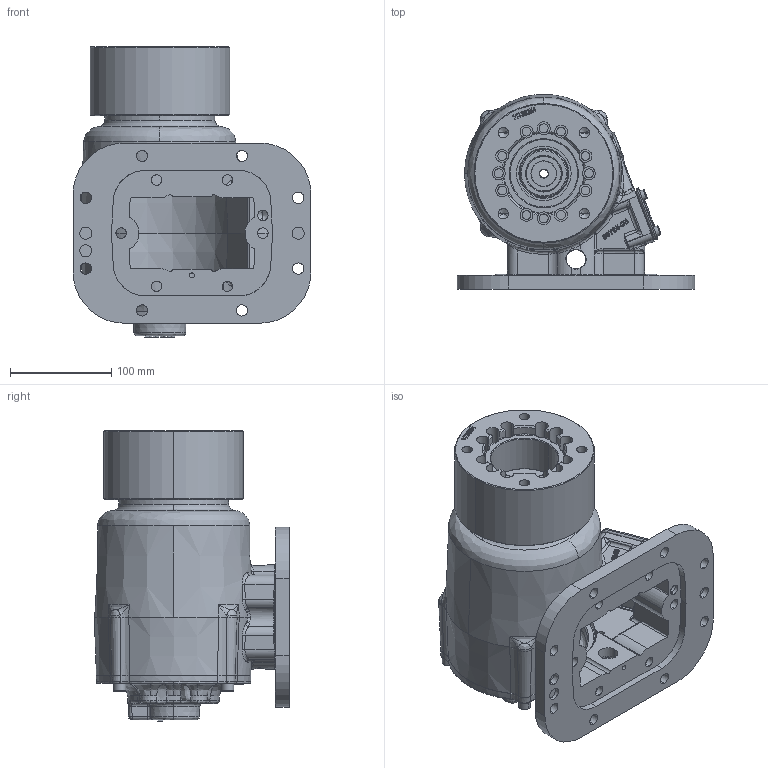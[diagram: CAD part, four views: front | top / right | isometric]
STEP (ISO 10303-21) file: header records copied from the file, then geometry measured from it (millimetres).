
FILE_DESCRIPTION (( 'STEP AP203' ), '1' );
FILE_NAME ('CS8S-XXXXX-E3IX.STEP', '2023-05-03T17:51:44', ( '' ), ( '' ), 'SwSTEP 2.0', 'SolidWorks 2021', '' );
FILE_SCHEMA (( 'CONFIG_CONTROL_DESIGN' ));
Length unit declared in the file: inch
Products named in the file (9): 14T38354; 19T41118; 11T37795; 01t37075a; 14TA4824_Config1; CS8S-XXXXX-E3IX; 16T41119; 19T35237; 15T36717
Assembly tree (14 placements, depth 3):
  CS8S-XXXXX-E3IX
    01t37075a
    15T36717
    16T41119
    19T41118  x4
    19T35237  x4
    14TA4824_Config1
      14T38354
      11T37795
Bounding box: 234.7 x 192.11 x 286.52 mm (x, y, z)
Volume: 2011802.9 mm3; surface area: 480932.3 mm2
Topology: 13 solids, 14 shells, 2234 faces, 5807 edges, 3661 vertices
Faces by surface type: bspline 944, plane 519, cylinder 477, cone 240, torus 54
Entity records: 156894 total; most frequent: CARTESIAN_POINT 111397, ORIENTED_EDGE 10894, DIRECTION 6299, EDGE_CURVE 5447, VERTEX_POINT 3475, B_SPLINE_CURVE_WITH_KNOTS 2405, EDGE_LOOP 2332, AXIS2_PLACEMENT_3D 2151
